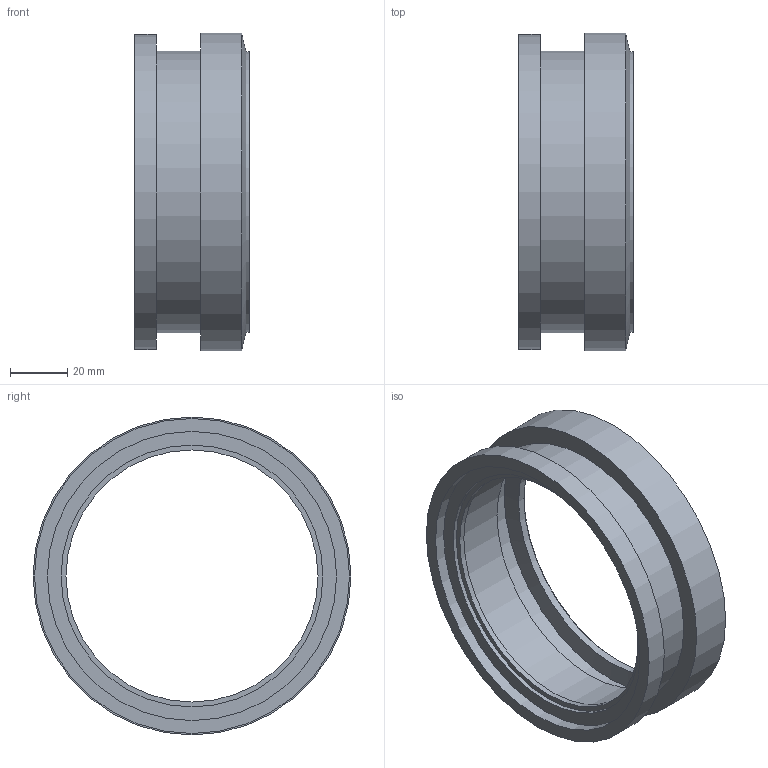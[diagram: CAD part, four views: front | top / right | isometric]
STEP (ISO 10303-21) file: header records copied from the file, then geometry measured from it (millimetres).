
FILE_DESCRIPTION(/* description */ (''),/* implementation_level */ '2;1');
FILE_NAME(/* name */ 'Z:\Geberit\Export\NewStep\367941.stp',/* time_stamp */ '2014-04-02T07:59:34+02:00',/* author */ ('nelson'),/* organization */ (''),/* preprocessor_version */ 'ST-DEVELOPER v15.2',/* originating_system */ 'Autodesk Inventor 2014',/* authorisation */ '');
FILE_SCHEMA (('AUTOMOTIVE_DESIGN { 1 0 10303 214 3 1 1 }'));
Length unit declared in the file: millimetre
Products named in the file (1): 367941
Bounding box: 40 x 111 x 111 mm (x, y, z)
Volume: 59400.5 mm3; surface area: 39367.7 mm2
Topology: 1 solids, 1 shells, 21 faces, 34 edges, 21 vertices
Faces by surface type: cylinder 10, plane 8, cone 3
Full cylindrical faces by diameter (mm): 88 x1, 91.45 x2, 92.2 x1, 98 x1, 98.2 x1, 100.94 x1, 104.7 x1, 110 x1, 111 x1
Entity records: 470 total; most frequent: DIRECTION 86, CARTESIAN_POINT 64, AXIS2_PLACEMENT_3D 43, EDGE_LOOP 42, ORIENTED_EDGE 42, FACE_BOUND 25, STYLED_ITEM 22, CIRCLE 21
